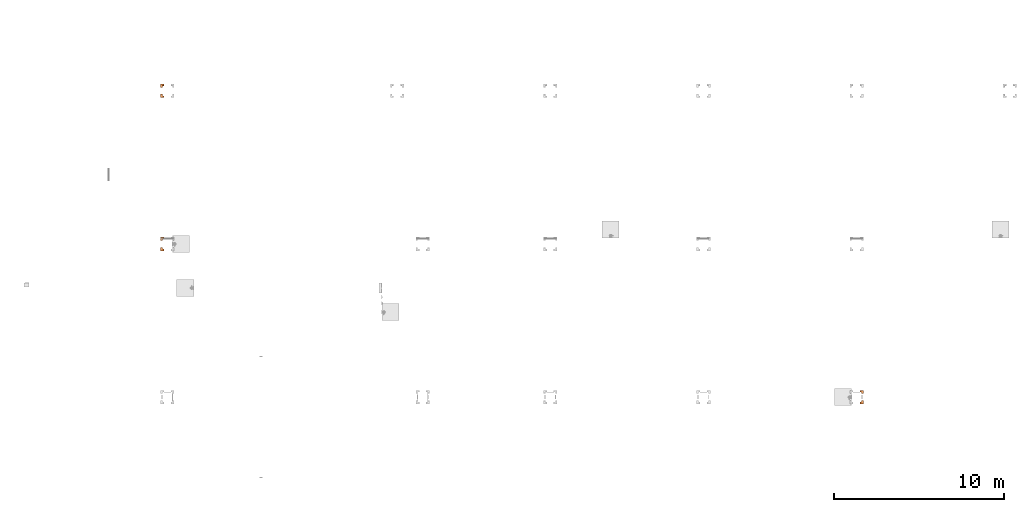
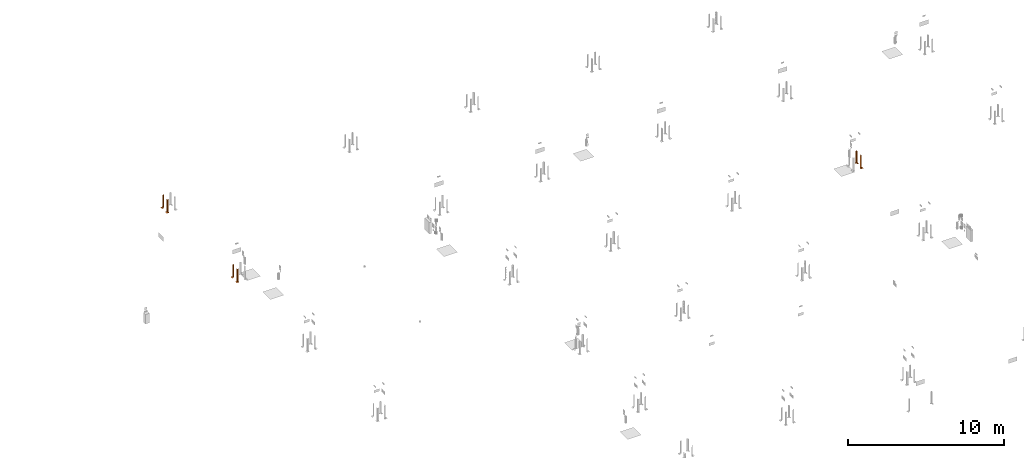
# One storey, part 12 of 119: 6 proxies.
"""IFC2X3 building model written with IfcOpenShell, lengths in metres."""

from ifc_helpers import new_model, entity, si_unit, converted_unit, derived_unit, direction, frame, origin, place, context, subcontext, project, spatial, faceted_brep, source, transform, mapped, material, material_list, type_object, type_shapes, element, save


model = new_model("IFC2X3")

# Units and contexts
model_context = context("Model", 3, precision=1e-05, world=origin(), true_north=direction((6.12303176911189e-17, 1.0)))
body_context = subcontext(model_context, "Body", "Model", "MODEL_VIEW")
ifc_project = project(units=[si_unit("LENGTHUNIT", "METRE"), si_unit("AREAUNIT", "SQUARE_METRE"), si_unit("VOLUMEUNIT", "CUBIC_METRE"), converted_unit("PLANEANGLEUNIT", "DEGREE", entity("IfcRatioMeasure", 0.0174532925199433), si_unit("PLANEANGLEUNIT", "RADIAN"), dimensions=[0, 0, 0, 0, 0, 0, 0]), si_unit("MASSUNIT", "GRAM", prefix="KILO"), derived_unit("MASSDENSITYUNIT", [(si_unit("MASSUNIT", "GRAM", prefix="KILO"), 1), (si_unit("LENGTHUNIT", "METRE"), -3)]), derived_unit("MOMENTOFINERTIAUNIT", [(si_unit("LENGTHUNIT", "METRE"), 4)]), si_unit("TIMEUNIT", "SECOND"), si_unit("FREQUENCYUNIT", "HERTZ"), si_unit("THERMODYNAMICTEMPERATUREUNIT", "DEGREE_CELSIUS"), derived_unit("THERMALTRANSMITTANCEUNIT", [(si_unit("MASSUNIT", "GRAM", prefix="KILO"), 1), (si_unit("THERMODYNAMICTEMPERATUREUNIT", "KELVIN"), -1), (si_unit("TIMEUNIT", "SECOND"), -3)]), derived_unit("VOLUMETRICFLOWRATEUNIT", [(si_unit("LENGTHUNIT", "METRE"), 3), (si_unit("TIMEUNIT", "SECOND"), -1)]), si_unit("ELECTRICCURRENTUNIT", "AMPERE"), si_unit("ELECTRICVOLTAGEUNIT", "VOLT"), si_unit("POWERUNIT", "WATT"), si_unit("FORCEUNIT", "NEWTON", prefix="KILO"), si_unit("ILLUMINANCEUNIT", "LUX"), si_unit("LUMINOUSFLUXUNIT", "LUMEN"), si_unit("LUMINOUSINTENSITYUNIT", "CANDELA"), derived_unit("USERDEFINED", [(si_unit("MASSUNIT", "GRAM", prefix="KILO"), -1), (si_unit("LENGTHUNIT", "METRE"), -2), (si_unit("TIMEUNIT", "SECOND"), 3), (si_unit("LUMINOUSFLUXUNIT", "LUMEN"), 1)]), derived_unit("LINEARVELOCITYUNIT", [(si_unit("LENGTHUNIT", "METRE"), 1), (si_unit("TIMEUNIT", "SECOND"), -1)]), si_unit("PRESSUREUNIT", "PASCAL"), derived_unit("USERDEFINED", [(si_unit("LENGTHUNIT", "METRE"), -2), (si_unit("MASSUNIT", "GRAM", prefix="KILO"), 1), (si_unit("TIMEUNIT", "SECOND"), -2)]), derived_unit("LINEARFORCEUNIT", [(si_unit("MASSUNIT", "GRAM", prefix="KILO"), 1), (si_unit("LENGTHUNIT", "METRE"), 1), (si_unit("TIMEUNIT", "SECOND"), -2), (si_unit("LENGTHUNIT", "METRE"), -1)]), derived_unit("PLANARFORCEUNIT", [(si_unit("MASSUNIT", "GRAM", prefix="KILO"), 1), (si_unit("LENGTHUNIT", "METRE"), 1), (si_unit("TIMEUNIT", "SECOND"), -2), (si_unit("LENGTHUNIT", "METRE"), -2)])], contexts=[model_context])

# Site, building, storey
site_placement = place(None, origin())
site = spatial("IfcSite", under=ifc_project, at=site_placement, Name="Default", CompositionType="ELEMENT")
building_placement = place(site_placement, origin())
building = spatial("IfcBuilding", under=site, at=building_placement, CompositionType="ELEMENT")
storey_placement = place(building_placement, origin())
storey = spatial("IfcBuildingStorey", under=building, at=storey_placement, Name="PAV. 01 - TÉRREO", CompositionType="ELEMENT", Elevation=0.0)

# Proxies
ifc_material_1 = material(Name="Plastico Amarelo")
ifc_material_2 = material(Name="Plastico Preto")
ifc_material_3 = material(Name="O_01_amarelo")
ifc_material_4 = material(Name="O_01_Preto")
ifc_material_list_1 = material_list([ifc_material_1, ifc_material_2, ifc_material_3, ifc_material_4])
ifc_material_list_2 = material_list([ifc_material_3, ifc_material_4, ifc_material_1])
building_element_proxy_type = type_object("IfcBuildingElementProxyType", Name="Indicação de Obstáculos:Indicador - O01 - Amarelo (ambiente interno)", PredefinedType="NOTDEFINED", material=ifc_material_list_2)
shared_shape = source(origin(), body_context, "Body", "Brep", [
    faceted_brep([(0.1, -0.0499999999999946, 0.000999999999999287), (0.0499999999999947, -0.1, 0.000999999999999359), (0.1, -0.1, 0.000999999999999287), (0.1, -0.0499999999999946, 0.0), (0.1, -0.1, 0.0), (0.0499999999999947, -0.1, 0.0)], [[[0, 1, 2]], [[3, 4, 5]], [[0, 2, 4, 3]], [[1, 0, 3, 5]], [[2, 1, 5, 4]]]),
    faceted_brep([(0.100000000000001, 0.0, 0.000999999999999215), (0.0, -0.1, 0.000999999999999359), (0.049999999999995, -0.1, 0.000999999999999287), (0.100000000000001, -0.0499999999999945, 0.000999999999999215), (0.100000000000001, 0.0, 0.0), (0.100000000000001, -0.0499999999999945, 0.0), (0.049999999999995, -0.1, 0.0), (0.0, -0.1, 0.0)], [[[0, 1, 2, 3]], [[4, 5, 6, 7]], [[0, 3, 5, 4]], [[1, 0, 4, 7]], [[3, 2, 6, 5]], [[2, 1, 7, 6]]]),
    faceted_brep([(0.049999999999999, 0.0, 0.000999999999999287), (-0.0500000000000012, -0.0999999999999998, 0.000999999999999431), (0.0, -0.1, 0.000999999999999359), (0.0999999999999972, 0.0, 0.000999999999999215), (0.049999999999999, 0.0, 0.0), (0.0999999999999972, 0.0, 0.0), (0.0, -0.1, 0.0), (-0.0500000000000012, -0.0999999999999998, 0.0)], [[[0, 1, 2, 3]], [[4, 5, 6, 7]], [[1, 0, 4, 7]], [[3, 2, 6, 5]], [[2, 1, 7, 6]], [[0, 3, 5, 4]]]),
    faceted_brep([(-0.0999999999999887, -0.0999999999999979, 0.000999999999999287), (-0.0499999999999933, -0.0999999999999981, 0.000999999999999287), (0.0499999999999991, 0.0, 0.000999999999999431), (0.0, 0.0, 0.000999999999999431), (-0.0999999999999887, -0.0999999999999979, 0.0), (0.0, 0.0, 0.0), (0.049999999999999, 0.0, 0.0), (-0.0499999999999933, -0.0999999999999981, 0.0)], [[[0, 1, 2, 3]], [[4, 5, 6, 7]], [[0, 3, 5, 4]], [[2, 1, 7, 6]], [[3, 2, 6, 5]], [[1, 0, 4, 7]]]),
    faceted_brep([(0.0, 0.0500000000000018, 0.000999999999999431), (-0.0999999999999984, -0.0500000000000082, 0.000999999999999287), (-0.099999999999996, -0.100000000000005, 0.000999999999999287), (0.0, 0.0, 0.000999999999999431), (0.0, 0.0500000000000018, 0.0), (0.0, 0.0, 0.0), (-0.099999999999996, -0.100000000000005, 0.0), (-0.0999999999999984, -0.0500000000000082, 0.0)], [[[0, 1, 2, 3]], [[4, 5, 6, 7]], [[0, 3, 5, 4]], [[1, 0, 4, 7]], [[2, 1, 7, 6]], [[3, 2, 6, 5]]]),
    faceted_brep([(-0.0999999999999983, 0.0499999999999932, 0.000999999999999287), (-0.0499999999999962, 0.1, 0.000999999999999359), (-0.100000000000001, 0.1, 0.000999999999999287), (-0.0999999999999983, 0.0499999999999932, 0.0), (-0.100000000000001, 0.1, 0.0), (-0.0499999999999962, 0.1, 0.0)], [[[0, 1, 2]], [[3, 4, 5]], [[0, 2, 4, 3]], [[1, 0, 3, 5]], [[2, 1, 5, 4]]]),
    faceted_brep([(-0.0999999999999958, 0.0, 0.000999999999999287), (0.0, 0.1, 0.000999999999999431), (-0.0499999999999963, 0.1, 0.000999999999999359), (-0.0999999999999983, 0.0499999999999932, 0.000999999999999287), (-0.0999999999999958, 0.0, 0.0), (-0.0999999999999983, 0.0499999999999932, 0.0), (-0.0499999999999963, 0.1, 0.0), (0.0, 0.1, 0.0)], [[[0, 1, 2, 3]], [[4, 5, 6, 7]], [[0, 3, 5, 4]], [[1, 0, 4, 7]], [[3, 2, 6, 5]], [[2, 1, 7, 6]]]),
    faceted_brep([(0.0, 0.050000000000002, 0.000999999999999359), (0.0, 0.1, 0.000999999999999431), (-0.0999999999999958, 0.0, 0.000999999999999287), (-0.0999999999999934, -0.0500000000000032, 0.000999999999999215), (0.0, 0.0500000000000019, 0.0), (-0.0999999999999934, -0.0500000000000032, 0.0), (-0.0999999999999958, 0.0, 0.0), (0.0, 0.1, 0.0)], [[[0, 1, 2, 3]], [[4, 5, 6, 7]], [[1, 0, 4, 7]], [[2, 1, 7, 6]], [[0, 3, 5, 4]], [[3, 2, 6, 5]]]),
    faceted_brep([(0.00200000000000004, 0.1, 1.0), (0.002, 0.00199999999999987, 0.902000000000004), (0.002, 0.00199999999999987, 0.802000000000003), (0.00200000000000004, 0.1, 0.900000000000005), (0.0, 0.1, 0.900000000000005), (0.0, 0.0, 0.800000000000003), (0.0, 0.0, 0.900000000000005), (0.0, 0.1, 1.0)], [[[0, 1, 2, 3]], [[4, 5, 6, 7]], [[4, 3, 2, 5]], [[1, 6, 5, 2]], [[6, 1, 0, 7]], [[3, 4, 7, 0]]]),
    faceted_brep([(0.00200000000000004, 0.1, 0.800000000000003), (0.002, 0.00199999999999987, 0.702000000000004), (0.002, 0.00199999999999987, 0.602000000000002), (0.00200000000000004, 0.1, 0.700000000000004), (0.0, 0.1, 0.700000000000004), (0.0, 0.0, 0.600000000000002), (0.0, 0.0, 0.700000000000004), (0.0, 0.1, 0.800000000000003)], [[[0, 1, 2, 3]], [[4, 5, 6, 7]], [[4, 3, 2, 5]], [[1, 6, 5, 2]], [[6, 1, 0, 7]], [[3, 4, 7, 0]]]),
    faceted_brep([(0.00200000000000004, 0.1, 0.600000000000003), (0.002, 0.00199999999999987, 0.502000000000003), (0.002, 0.00199999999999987, 0.402000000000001), (0.00200000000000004, 0.1, 0.500000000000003), (0.0, 0.1, 0.500000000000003), (0.0, 0.0, 0.400000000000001), (0.0, 0.0, 0.500000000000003), (0.0, 0.1, 0.600000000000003)], [[[0, 1, 2, 3]], [[4, 5, 6, 7]], [[4, 3, 2, 5]], [[1, 6, 5, 2]], [[6, 1, 0, 7]], [[3, 4, 7, 0]]]),
    faceted_brep([(0.00200000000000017, 0.0999999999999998, 0.400000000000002), (0.00200000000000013, 0.0019999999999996, 0.302000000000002), (0.00200000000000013, 0.0019999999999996, 0.202), (0.00200000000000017, 0.0999999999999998, 0.300000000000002), (0.0, 0.0999999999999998, 0.300000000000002), (0.0, 0.0, 0.2), (0.0, 0.0, 0.300000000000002), (0.0, 0.0999999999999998, 0.400000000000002)], [[[0, 1, 2, 3]], [[4, 5, 6, 7]], [[4, 3, 2, 5]], [[1, 6, 5, 2]], [[6, 1, 0, 7]], [[3, 4, 7, 0]]]),
    faceted_brep([(0.000500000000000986, 0.1, 0.900000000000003), (0.000500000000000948, 0.000499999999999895, 0.800500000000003), (0.000500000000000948, 0.00049999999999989, 0.700500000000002), (0.000500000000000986, 0.1, 0.800000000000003), (0.0, 0.1, 0.800000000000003), (0.0, 0.0, 0.700000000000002), (0.0, 0.0, 0.800000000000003), (0.0, 0.1, 0.900000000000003)], [[[0, 1, 2, 3]], [[4, 5, 6, 7]], [[4, 3, 2, 5]], [[1, 6, 5, 2]], [[6, 1, 0, 7]], [[3, 4, 7, 0]]]),
    faceted_brep([(0.000500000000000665, 0.1, 0.700000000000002), (0.000500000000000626, 0.000499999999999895, 0.600500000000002), (0.000500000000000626, 0.00049999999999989, 0.500500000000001), (0.000500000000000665, 0.1, 0.600000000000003), (0.0, 0.1, 0.600000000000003), (0.0, 0.0, 0.500000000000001), (0.0, 0.0, 0.600000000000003), (0.0, 0.1, 0.700000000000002)], [[[0, 1, 2, 3]], [[4, 5, 6, 7]], [[4, 3, 2, 5]], [[1, 6, 5, 2]], [[6, 1, 0, 7]], [[3, 4, 7, 0]]]),
    faceted_brep([(0.000500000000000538, 0.0999999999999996, 0.500000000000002), (0.000500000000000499, 0.000499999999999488, 0.400500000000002), (0.000500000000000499, 0.000499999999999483, 0.3005), (0.000500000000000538, 0.0999999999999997, 0.400000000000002), (0.0, 0.0999999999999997, 0.400000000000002), (0.0, 0.0, 0.3), (0.0, 0.0, 0.400000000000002), (0.0, 0.0999999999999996, 0.500000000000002)], [[[0, 1, 2, 3]], [[4, 5, 6, 7]], [[4, 3, 2, 5]], [[1, 6, 5, 2]], [[6, 1, 0, 7]], [[3, 4, 7, 0]]]),
    faceted_brep([(0.00499999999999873, 0.00499999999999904, 1.0), (0.00499999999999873, 0.00499999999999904, 0.904999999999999), (0.00499999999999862, 0.0999999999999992, 1.0), (0.0, 0.0, 0.899999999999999), (0.0, 0.0, 1.0), (0.0, 0.0999999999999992, 1.0)], [[[0, 1, 2]], [[3, 4, 5]], [[4, 0, 2, 5]], [[5, 2, 1, 3]], [[0, 4, 3, 1]]]),
    faceted_brep([(0.00499999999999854, 0.00499999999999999, 1.0), (0.0999999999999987, 0.00499999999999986, 1.0), (0.00499999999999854, 0.00499999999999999, 0.904999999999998), (0.0, 0.0, 0.899999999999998), (0.0999999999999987, 0.0, 1.0), (0.0, 0.0, 1.0)], [[[0, 1, 2]], [[3, 4, 5]], [[5, 4, 1, 0]], [[4, 3, 2, 1]], [[0, 2, 3, 5]]]),
    faceted_brep([(0.0999999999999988, 0.000499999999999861, 0.900000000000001), (0.0999999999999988, 0.000499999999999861, 0.800000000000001), (0.000499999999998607, 0.000499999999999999, 0.7005), (0.000499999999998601, 0.000499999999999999, 0.800500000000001), (0.0999999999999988, 0.0, 0.800000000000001), (0.0999999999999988, 0.0, 0.900000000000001), (0.0, 0.0, 0.800000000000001), (0.0, 0.0, 0.7)], [[[0, 1, 2, 3]], [[4, 5, 6, 7]], [[4, 7, 2, 1]], [[3, 2, 7, 6]], [[6, 5, 0, 3]], [[1, 0, 5, 4]]]),
    faceted_brep([(0.0999999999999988, 0.000499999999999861, 0.700000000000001), (0.0999999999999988, 0.000499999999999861, 0.600000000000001), (0.000499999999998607, 0.000499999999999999, 0.5005), (0.000499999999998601, 0.000499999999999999, 0.600500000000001), (0.0999999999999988, 0.0, 0.600000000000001), (0.0999999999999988, 0.0, 0.700000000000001), (0.0, 0.0, 0.600000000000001), (0.0, 0.0, 0.5)], [[[0, 1, 2, 3]], [[4, 5, 6, 7]], [[4, 7, 2, 1]], [[3, 2, 7, 6]], [[6, 5, 0, 3]], [[1, 0, 5, 4]]]),
    faceted_brep([(0.0999999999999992, 0.000499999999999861, 0.500000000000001), (0.0999999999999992, 0.000499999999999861, 0.400000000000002), (0.000499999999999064, 0.000499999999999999, 0.3005), (0.000499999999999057, 0.000499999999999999, 0.400500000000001), (0.0999999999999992, 0.0, 0.400000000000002), (0.0999999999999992, 0.0, 0.500000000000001), (0.0, 0.0, 0.400000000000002), (0.0, 0.0, 0.3)], [[[0, 1, 2, 3]], [[4, 5, 6, 7]], [[4, 7, 2, 1]], [[3, 2, 7, 6]], [[6, 5, 0, 3]], [[1, 0, 5, 4]]]),
    faceted_brep([(0.0999999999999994, 0.00199999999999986, 1.0), (0.0999999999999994, 0.00199999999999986, 0.900000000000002), (0.00199999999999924, 0.002, 0.802), (0.00199999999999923, 0.002, 0.902000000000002), (0.0999999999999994, 0.0, 0.900000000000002), (0.0999999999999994, 0.0, 1.0), (0.0, 0.0, 0.900000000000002), (0.0, 0.0, 0.8)], [[[0, 1, 2, 3]], [[4, 5, 6, 7]], [[4, 7, 2, 1]], [[3, 2, 7, 6]], [[6, 5, 0, 3]], [[1, 0, 5, 4]]]),
    faceted_brep([(0.0999999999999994, 0.00199999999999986, 0.800000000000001), (0.0999999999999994, 0.00199999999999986, 0.700000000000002), (0.00199999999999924, 0.002, 0.602), (0.00199999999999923, 0.002, 0.702000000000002), (0.0999999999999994, 0.0, 0.700000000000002), (0.0999999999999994, 0.0, 0.800000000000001), (0.0, 0.0, 0.700000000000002), (0.0, 0.0, 0.6)], [[[0, 1, 2, 3]], [[4, 5, 6, 7]], [[4, 7, 2, 1]], [[3, 2, 7, 6]], [[6, 5, 0, 3]], [[1, 0, 5, 4]]]),
    faceted_brep([(0.0999999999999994, 0.00199999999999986, 0.600000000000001), (0.0999999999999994, 0.00199999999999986, 0.500000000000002), (0.00199999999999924, 0.002, 0.402), (0.00199999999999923, 0.002, 0.502000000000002), (0.0999999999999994, 0.0, 0.500000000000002), (0.0999999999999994, 0.0, 0.600000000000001), (0.0, 0.0, 0.500000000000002), (0.0, 0.0, 0.4)], [[[0, 1, 2, 3]], [[4, 5, 6, 7]], [[4, 7, 2, 1]], [[3, 2, 7, 6]], [[6, 5, 0, 3]], [[1, 0, 5, 4]]]),
    faceted_brep([(0.0999999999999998, 0.00199999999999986, 0.400000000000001), (0.0999999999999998, 0.00199999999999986, 0.300000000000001), (0.00199999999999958, 0.002, 0.202), (0.00199999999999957, 0.002, 0.302000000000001), (0.0999999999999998, 0.0, 0.300000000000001), (0.0999999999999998, 0.0, 0.400000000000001), (0.0, 0.0, 0.300000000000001), (0.0, 0.0, 0.2)], [[[0, 1, 2, 3]], [[4, 5, 6, 7]], [[4, 7, 2, 1]], [[3, 2, 7, 6]], [[6, 5, 0, 3]], [[1, 0, 5, 4]]]),
    faceted_brep([(0.000500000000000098, 0.1, 0.300000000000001), (0.000500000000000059, 0.000499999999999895, 0.200500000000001), (0.000500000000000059, 0.00049999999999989, 0.1005), (0.000500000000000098, 0.1, 0.200000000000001), (0.0, 0.1, 0.200000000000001), (0.0, 0.0, 0.0999999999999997), (0.0, 0.0, 0.200000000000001), (0.0, 0.1, 0.300000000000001)], [[[0, 1, 2, 3]], [[4, 5, 6, 7]], [[4, 3, 2, 5]], [[1, 6, 5, 2]], [[6, 1, 0, 7]], [[3, 4, 7, 0]]]),
    faceted_brep([(0.00200000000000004, 0.1, 0.200000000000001), (0.002, 0.00199999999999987, 0.102000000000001), (0.002, 0.00199999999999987, 0.00199999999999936), (0.00200000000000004, 0.1, 0.100000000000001), (0.0, 0.1, 0.100000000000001), (0.0, 0.0, 0.0), (0.0, 0.0, 0.100000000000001), (0.0, 0.1, 0.200000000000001)], [[[0, 1, 2, 3]], [[4, 5, 6, 7]], [[4, 3, 2, 5]], [[1, 6, 5, 2]], [[6, 1, 0, 7]], [[3, 4, 7, 0]]]),
    faceted_brep([(0.000500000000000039, 0.1, 0.100000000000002), (0.0005, 0.000499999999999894, 0.000499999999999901), (0.0005, 0.000499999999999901, 0.0), (0.000500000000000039, 0.1, 0.0), (0.0, 0.0, 0.0), (0.0, 0.1, 0.100000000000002), (0.0, 0.1, 0.0)], [[[0, 1, 2, 3]], [[4, 5, 6]], [[3, 6, 5, 0]], [[6, 3, 2, 4]], [[4, 1, 0, 5]], [[1, 4, 2]]]),
    faceted_brep([(0.0999999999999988, 0.000499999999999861, 0.300000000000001), (0.0999999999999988, 0.000499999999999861, 0.200000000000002), (0.000499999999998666, 0.000499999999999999, 0.1005), (0.00049999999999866, 0.000499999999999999, 0.200500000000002), (0.0999999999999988, 0.0, 0.200000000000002), (0.0999999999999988, 0.0, 0.300000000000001), (0.0, 0.0, 0.200000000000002), (0.0, 0.0, 0.1)], [[[0, 1, 2, 3]], [[4, 5, 6, 7]], [[4, 7, 2, 1]], [[3, 2, 7, 6]], [[6, 5, 0, 3]], [[1, 0, 5, 4]]]),
    faceted_brep([(0.0999999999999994, 0.00199999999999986, 0.200000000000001), (0.0999999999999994, 0.00199999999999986, 0.100000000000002), (0.00199999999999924, 0.002, 0.0019999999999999), (0.00199999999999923, 0.002, 0.102000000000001), (0.0999999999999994, 0.0, 0.100000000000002), (0.0999999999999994, 0.0, 0.200000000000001), (0.0, 0.0, 0.100000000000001), (0.0, 0.0, 0.0)], [[[0, 1, 2, 3]], [[4, 5, 6, 7]], [[4, 7, 2, 1]], [[3, 2, 7, 6]], [[6, 5, 0, 3]], [[1, 0, 5, 4]]]),
    faceted_brep([(0.1, 0.000499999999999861, 0.100000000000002), (0.1, 0.000499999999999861, 0.0), (0.000499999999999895, 0.000499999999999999, 0.0), (0.000499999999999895, 0.000499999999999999, 0.000499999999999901), (0.0, 0.0, 0.0), (0.1, 0.0, 0.0), (0.1, 0.0, 0.100000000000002)], [[[0, 1, 2, 3]], [[4, 5, 6]], [[1, 0, 6, 5]], [[5, 4, 2, 1]], [[4, 6, 0, 3]], [[3, 2, 4]]]),
])
type_shapes(building_element_proxy_type, [shared_shape])
proxy_1_placement = place(storey_placement, frame((5.87387552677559, 31.6286451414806, 0.0)))
element("IfcBuildingElementProxy", 1, at=proxy_1_placement, inside=storey, type_object=building_element_proxy_type, material=ifc_material_list_1, Name="Indicação de Obstáculos:Indicador - O01 - Amarelo (ambiente interno)", ObjectType="Indicação de Obstáculos:Indicador - O01 - Amarelo (ambiente interno)", context=body_context, shape_type="MappedRepresentation", body=[
    mapped(shared_shape, transform((0.0, 0.0, 0.0), scale=1.0)),
])
ifc_material_list_3 = material_list([ifc_material_1, ifc_material_2, ifc_material_3, ifc_material_4])
proxy_2_placement = place(storey_placement, frame((5.87387552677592, 32.2286443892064, 0.0), z_axis=(0.0, 0.0, 1.0), x_axis=(0.0, -1.0, 0.0)))
element("IfcBuildingElementProxy", 2, at=proxy_2_placement, inside=storey, type_object=building_element_proxy_type, material=ifc_material_list_3, Name="Indicação de Obstáculos:Indicador - O01 - Amarelo (ambiente interno)", ObjectType="Indicação de Obstáculos:Indicador - O01 - Amarelo (ambiente interno)", context=body_context, shape_type="MappedRepresentation", body=[
    mapped(shared_shape, transform((0.0, 0.0, 0.0), scale=1.0)),
])
ifc_material_list_4 = material_list([ifc_material_1, ifc_material_2, ifc_material_3, ifc_material_4])
proxy_3_placement = place(storey_placement, frame((5.87387552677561, 40.628633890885, 0.0)))
element("IfcBuildingElementProxy", 3, at=proxy_3_placement, inside=storey, type_object=building_element_proxy_type, material=ifc_material_list_4, Name="Indicação de Obstáculos:Indicador - O01 - Amarelo (ambiente interno)", ObjectType="Indicação de Obstáculos:Indicador - O01 - Amarelo (ambiente interno)", context=body_context, shape_type="MappedRepresentation", body=[
    mapped(shared_shape, transform((0.0, 0.0, 0.0), scale=1.0)),
])
ifc_material_list_5 = material_list([ifc_material_1, ifc_material_2, ifc_material_3, ifc_material_4])
proxy_4_placement = place(storey_placement, frame((5.87387552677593, 41.2286331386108, 0.0), z_axis=(0.0, 0.0, 1.0), x_axis=(0.0, -1.0, 0.0)))
element("IfcBuildingElementProxy", 4, at=proxy_4_placement, inside=storey, type_object=building_element_proxy_type, material=ifc_material_list_5, Name="Indicação de Obstáculos:Indicador - O01 - Amarelo (ambiente interno)", ObjectType="Indicação de Obstáculos:Indicador - O01 - Amarelo (ambiente interno)", context=body_context, shape_type="MappedRepresentation", body=[
    mapped(shared_shape, transform((0.0, 0.0, 0.0), scale=1.0)),
])
ifc_material_list_6 = material_list([ifc_material_1, ifc_material_2, ifc_material_3, ifc_material_4])
proxy_5_placement = place(storey_placement, frame((46.9738241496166, 22.6286563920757, 0.0), z_axis=(0.0, 0.0, 1.0), x_axis=(0.0, 1.0, 0.0)))
element("IfcBuildingElementProxy", 5, at=proxy_5_placement, inside=storey, type_object=building_element_proxy_type, material=ifc_material_list_6, Name="Indicação de Obstáculos:Indicador - O01 - Amarelo (ambiente interno)", ObjectType="Indicação de Obstáculos:Indicador - O01 - Amarelo (ambiente interno)", context=body_context, shape_type="MappedRepresentation", body=[
    mapped(shared_shape, transform((0.0, 0.0, 0.0), scale=1.0)),
])
ifc_material_list_7 = material_list([ifc_material_1, ifc_material_2, ifc_material_3, ifc_material_4])
proxy_6_placement = place(storey_placement, frame((46.9738241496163, 23.2286556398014, 0.0), z_axis=(0.0, 0.0, 1.0), x_axis=(-1.0, 0.0, 0.0)))
element("IfcBuildingElementProxy", 6, at=proxy_6_placement, inside=storey, type_object=building_element_proxy_type, material=ifc_material_list_7, Name="Indicação de Obstáculos:Indicador - O01 - Amarelo (ambiente interno)", ObjectType="Indicação de Obstáculos:Indicador - O01 - Amarelo (ambiente interno)", context=body_context, shape_type="MappedRepresentation", body=[
    mapped(shared_shape, transform((0.0, 0.0, 0.0), scale=1.0)),
])

save(model, "model.ifc")
